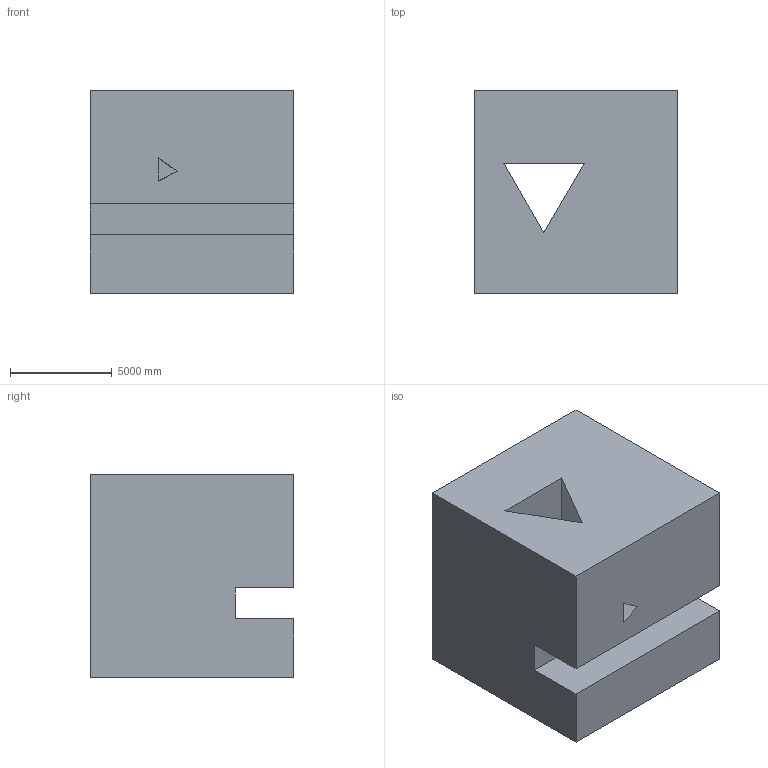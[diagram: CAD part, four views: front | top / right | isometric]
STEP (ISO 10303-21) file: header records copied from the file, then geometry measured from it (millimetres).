
FILE_DESCRIPTION (( 'STEP AP203' ), '1' );
FILE_NAME ('27.STEP', '2022-09-01T11:39:29', ( 'user' ), ( '' ), 'SwSTEP 2.0', 'SolidWorks 2021', '' );
FILE_SCHEMA (( 'CONFIG_CONTROL_DESIGN' ));
Length unit declared in the file: centimetre
Products named in the file (1): 27
Bounding box: 10000 x 10000 x 10000 mm (x, y, z)
Volume: 885922034172 mm3; surface area: 771542762.6 mm2
Topology: 1 solids, 1 shells, 20 faces, 54 edges, 36 vertices
Faces by surface type: plane 20
Entity records: 703 total; most frequent: CARTESIAN_POINT 111, ORIENTED_EDGE 108, DIRECTION 96, LINE 54, VECTOR 54, EDGE_CURVE 54, VERTEX_POINT 36, EDGE_LOOP 24
